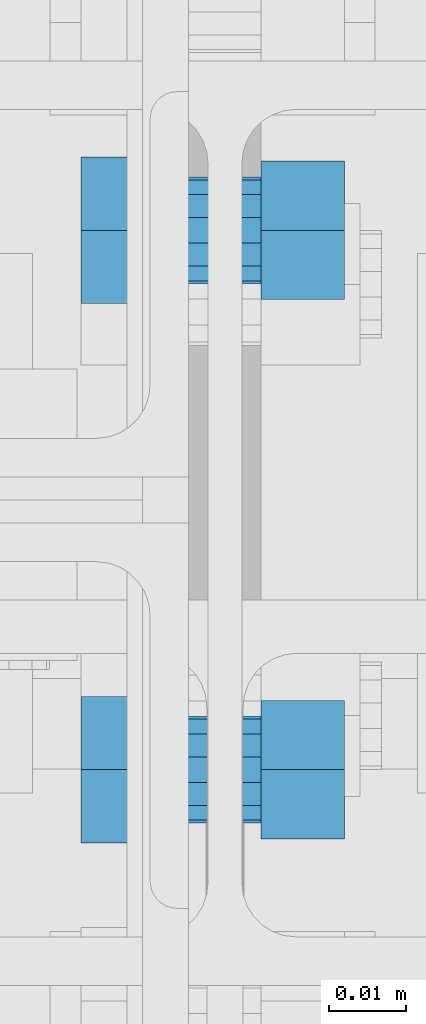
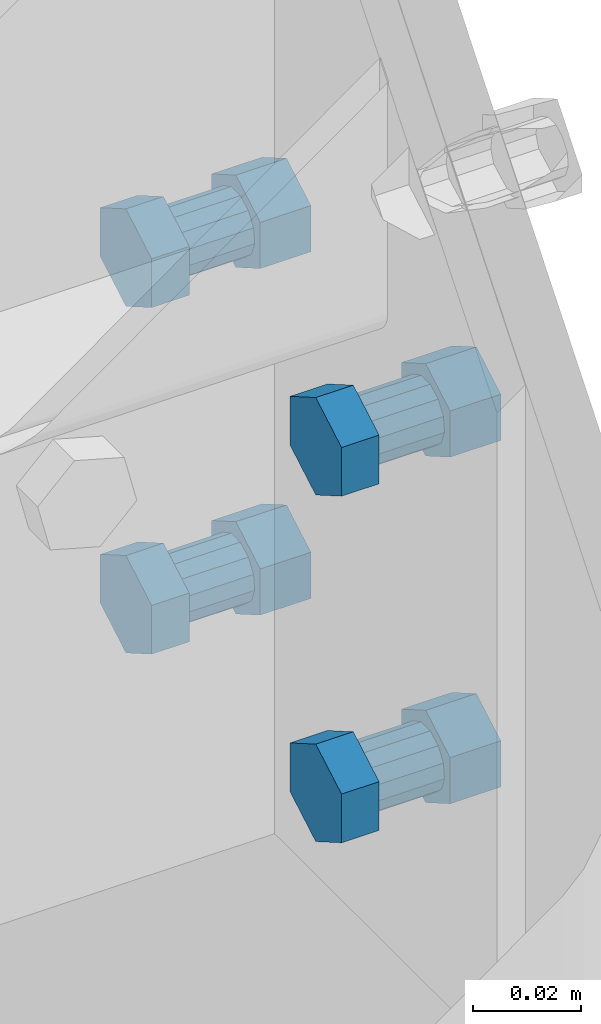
# One storey, part 8 of 18: 1 mechanical fastener.
"""IFC2X3 building model written with IfcOpenShell, lengths in millimetres."""

from ifc_helpers import new_model, si_unit, frame, origin_with_axes, place, context, subcontext, project, spatial, faceted_brep, source, transform, mapped, type_object, element, save


model = new_model("IFC2X3")

# Units and contexts
model_context = context("Model", 3, precision=1e-05, world=origin_with_axes())
body_context = subcontext(model_context, "Body", "Model", "MODEL_VIEW")
ifc_project = project(units=[si_unit("LENGTHUNIT", "METRE", prefix="MILLI"), si_unit("AREAUNIT", "SQUARE_METRE"), si_unit("VOLUMEUNIT", "CUBIC_METRE"), si_unit("MASSUNIT", "GRAM", prefix="KILO"), si_unit("TIMEUNIT", "SECOND"), si_unit("PLANEANGLEUNIT", "RADIAN"), si_unit("SOLIDANGLEUNIT", "STERADIAN"), si_unit("THERMODYNAMICTEMPERATUREUNIT", "DEGREE_CELSIUS"), si_unit("LUMINOUSINTENSITYUNIT", "LUMEN")], contexts=[model_context])

# Site, building, storey
site_placement = place(None, origin_with_axes())
site = spatial("IfcSite", under=ifc_project, at=site_placement, Name="Undefined", CompositionType="ELEMENT")
building_placement = place(site_placement, origin_with_axes())
building = spatial("IfcBuilding", under=site, at=building_placement, Name="Undefined", CompositionType="ELEMENT")
storey_placement = place(building_placement, origin_with_axes())
storey = spatial("IfcBuildingStorey", under=building, at=storey_placement, Name="Undefined", CompositionType="ELEMENT", Elevation=0.0)

# Mechanical fastener
mechanical_fastener_type = type_object("IfcMechanicalFastenerType", Name="Bolt assembly")
shared_shape_1 = source(origin_with_axes(), body_context, "Body", "Brep", [
    faceted_brep([(10.96965511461, -18.7000000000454, 0.0), (5.484827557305, -18.7000000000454, 9.50000000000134), (-5.484827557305, -18.7000000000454, 9.50000000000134), (-10.96965511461, -18.7000000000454, 0.0), (-5.484827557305, -18.7000000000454, -9.50000000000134), (5.484827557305, -18.7000000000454, -9.50000000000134), (5.484827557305, -10.7000000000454, -9.50000000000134), (-5.484827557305, -10.7000000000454, -9.50000000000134), (-10.96965511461, -10.7000000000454, 0.0), (-5.484827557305, -10.7000000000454, 9.50000000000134), (5.484827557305, -10.7000000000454, 9.50000000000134), (10.96965511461, -10.7000000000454, 0.0), (6.0, -10.7000000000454, 0.0), (5.31273615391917, -10.7000000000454, 2.78833903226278), (3.40838848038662, -10.7000000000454, 4.93790319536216), (0.723220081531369, -10.7000000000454, 5.95625324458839), (-2.12762932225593, -10.7000000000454, 5.61009745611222), (-4.49106448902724, -10.7000000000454, 3.97873594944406), (-5.82565090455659, -10.7000000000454, 1.43589398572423), (-5.82565090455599, -10.7000000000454, -1.43589398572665), (-4.49106448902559, -10.7000000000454, -3.97873594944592), (-2.12762932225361, -10.7000000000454, -5.6100974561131), (0.723220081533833, -10.7000000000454, -5.95625324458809), (3.40838848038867, -10.7000000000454, -4.93790319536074), (3.40838848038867, 14.2999999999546, -4.93790319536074), (0.723220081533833, 14.2999999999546, -5.95625324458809), (-2.12762932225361, 14.2999999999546, -5.6100974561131), (-4.49106448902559, 14.2999999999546, -3.97873594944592), (-5.82565090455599, 14.2999999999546, -1.43589398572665), (-5.82565090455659, 14.2999999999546, 1.43589398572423), (-4.49106448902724, 14.2999999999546, 3.97873594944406), (-2.12762932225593, 14.2999999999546, 5.61009745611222), (0.723220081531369, 14.2999999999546, 5.95625324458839), (3.40838848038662, 14.2999999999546, 4.93790319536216), (5.31273615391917, 14.2999999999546, 2.78833903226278), (6.0, 14.2999999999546, 0.0), (10.39230484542, 4.7000095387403, 0.0), (5.19615242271, 4.7000095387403, 9.00000000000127), (-5.19615242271, 4.7000095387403, 9.00000000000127), (-10.39230484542, 4.7000095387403, 0.0), (-5.19615242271, 4.7000095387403, -9.00000000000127), (5.19615242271, 4.7000095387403, -9.00000000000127), (5.19615242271, 15.5000097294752, -9.00000000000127), (-5.19615242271, 15.5000097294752, -9.00000000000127), (-10.39230484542, 15.5000097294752, 0.0), (-5.19615242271, 15.5000097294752, 9.00000000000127), (5.19615242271, 15.5000097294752, 9.00000000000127), (10.39230484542, 15.5000097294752, 0.0)], [[[0, 1, 2, 3, 4, 5]], [[6, 7, 8, 9, 10, 11]], [[0, 11, 10, 1]], [[1, 10, 9, 2]], [[2, 9, 8, 3]], [[3, 8, 7, 4]], [[4, 7, 6, 5]], [[5, 6, 11, 0]], [[12, 13, 14, 15, 16, 17, 18, 19, 20, 21, 22, 23]], [[24, 25, 26, 27, 28, 29, 30, 31, 32, 33, 34, 35]], [[12, 35, 34, 13]], [[13, 34, 33, 14]], [[14, 33, 32, 15]], [[15, 32, 31, 16]], [[16, 31, 30, 17]], [[17, 30, 29, 18]], [[18, 29, 28, 19]], [[19, 28, 27, 20]], [[20, 27, 26, 21]], [[21, 26, 25, 22]], [[22, 25, 24, 23]], [[23, 24, 35, 12]], [[36, 37, 38, 39, 40, 41]], [[42, 43, 44, 45, 46, 47]], [[36, 47, 46, 37]], [[37, 46, 45, 38]], [[38, 45, 44, 39]], [[39, 44, 43, 40]], [[40, 43, 42, 41]], [[41, 42, 47, 36]]]),
    faceted_brep([(7.0, -4.7999900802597, 0.0), (6.19819217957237, -4.7999900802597, 3.25306220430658), (3.97645322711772, -4.7999900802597, 5.76088706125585), (0.843756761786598, -4.7999900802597, 6.94896211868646), (-2.48223420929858, -4.7999900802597, 6.54511369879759), (-5.23957523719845, -4.7999900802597, 4.64185860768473), (-6.79659272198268, -4.7999900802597, 1.67520965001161), (-6.79659272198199, -4.7999900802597, -1.67520965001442), (-5.23957523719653, -4.7999900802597, -4.6418586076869), (-2.48223420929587, -4.7999900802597, -6.54511369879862), (0.843756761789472, -4.7999900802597, -6.94896211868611), (3.97645322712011, -4.7999900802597, -5.7608870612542), (3.97645322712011, 4.7000095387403, -5.7608870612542), (0.843756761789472, 4.7000095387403, -6.94896211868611), (-2.48223420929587, 4.7000095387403, -6.54511369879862), (-5.23957523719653, 4.7000095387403, -4.6418586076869), (-6.79659272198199, 4.7000095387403, -1.67520965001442), (-6.79659272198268, 4.7000095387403, 1.67520965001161), (-5.23957523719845, 4.7000095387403, 4.64185860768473), (-2.48223420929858, 4.7000095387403, 6.54511369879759), (0.843756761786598, 4.7000095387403, 6.94896211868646), (3.97645322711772, 4.7000095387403, 5.76088706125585), (6.19819217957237, 4.7000095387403, 3.25306220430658), (7.0, 4.7000095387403, 0.0), (7.0, -10.6000000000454, 0.0), (6.19819217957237, -10.6000000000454, 3.25306220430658), (3.97645322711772, -10.6000000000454, 5.76088706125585), (0.843756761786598, -10.6000000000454, 6.94896211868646), (-2.48223420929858, -10.6000000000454, 6.54511369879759), (-5.23957523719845, -10.6000000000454, 4.64185860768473), (-6.79659272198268, -10.6000000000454, 1.67520965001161), (-6.79659272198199, -10.6000000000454, -1.67520965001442), (-5.23957523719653, -10.6000000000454, -4.6418586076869), (-2.48223420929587, -10.6000000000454, -6.54511369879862), (0.843756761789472, -10.6000000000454, -6.94896211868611), (3.97645322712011, -10.6000000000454, -5.7608870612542), (3.97645322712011, -4.60000000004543, -5.7608870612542), (0.843756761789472, -4.60000000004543, -6.94896211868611), (-2.48223420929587, -4.60000000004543, -6.54511369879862), (-5.23957523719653, -4.60000000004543, -4.6418586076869), (-6.79659272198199, -4.60000000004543, -1.67520965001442), (-6.79659272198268, -4.60000000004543, 1.67520965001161), (-5.23957523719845, -4.60000000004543, 4.64185860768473), (-2.48223420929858, -4.60000000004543, 6.54511369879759), (0.843756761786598, -4.60000000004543, 6.94896211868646), (3.97645322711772, -4.60000000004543, 5.76088706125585), (6.19819217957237, -4.60000000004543, 3.25306220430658), (7.0, -4.60000000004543, 0.0)], [[[0, 1, 2, 3, 4, 5, 6, 7, 8, 9, 10, 11]], [[12, 13, 14, 15, 16, 17, 18, 19, 20, 21, 22, 23]], [[0, 23, 22, 1]], [[1, 22, 21, 2]], [[2, 21, 20, 3]], [[3, 20, 19, 4]], [[4, 19, 18, 5]], [[5, 18, 17, 6]], [[6, 17, 16, 7]], [[7, 16, 15, 8]], [[8, 15, 14, 9]], [[9, 14, 13, 10]], [[10, 13, 12, 11]], [[11, 12, 23, 0]], [[24, 25, 26, 27, 28, 29, 30, 31, 32, 33, 34, 35]], [[36, 37, 38, 39, 40, 41, 42, 43, 44, 45, 46, 47]], [[24, 47, 46, 25]], [[25, 46, 45, 26]], [[26, 45, 44, 27]], [[27, 44, 43, 28]], [[28, 43, 42, 29]], [[29, 42, 41, 30]], [[30, 41, 40, 31]], [[31, 40, 39, 32]], [[32, 39, 38, 33]], [[33, 38, 37, 34]], [[34, 37, 36, 35]], [[35, 36, 47, 24]]]),
])
shared_shape_2 = source(origin_with_axes(), body_context, "Body", "Brep", [
    faceted_brep([(10.96965511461, -18.7000000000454, 0.0), (5.484827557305, -18.7000000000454, 9.50000000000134), (-5.484827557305, -18.7000000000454, 9.50000000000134), (-10.96965511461, -18.7000000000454, 0.0), (-5.484827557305, -18.7000000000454, -9.50000000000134), (5.484827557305, -18.7000000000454, -9.50000000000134), (5.484827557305, -10.7000000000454, -9.50000000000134), (-5.484827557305, -10.7000000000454, -9.50000000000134), (-10.96965511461, -10.7000000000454, 0.0), (-5.484827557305, -10.7000000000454, 9.50000000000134), (5.484827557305, -10.7000000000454, 9.50000000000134), (10.96965511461, -10.7000000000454, 0.0), (6.0, -10.7000000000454, 0.0), (5.31273615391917, -10.7000000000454, 2.78833903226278), (3.40838848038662, -10.7000000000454, 4.93790319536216), (0.723220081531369, -10.7000000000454, 5.95625324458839), (-2.12762932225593, -10.7000000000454, 5.61009745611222), (-4.49106448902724, -10.7000000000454, 3.97873594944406), (-5.82565090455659, -10.7000000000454, 1.43589398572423), (-5.82565090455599, -10.7000000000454, -1.43589398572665), (-4.49106448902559, -10.7000000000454, -3.97873594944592), (-2.12762932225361, -10.7000000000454, -5.6100974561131), (0.723220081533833, -10.7000000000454, -5.95625324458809), (3.40838848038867, -10.7000000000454, -4.93790319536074), (3.40838848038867, 14.2999999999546, -4.93790319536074), (0.723220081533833, 14.2999999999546, -5.95625324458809), (-2.12762932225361, 14.2999999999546, -5.6100974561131), (-4.49106448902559, 14.2999999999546, -3.97873594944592), (-5.82565090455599, 14.2999999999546, -1.43589398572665), (-5.82565090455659, 14.2999999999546, 1.43589398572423), (-4.49106448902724, 14.2999999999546, 3.97873594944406), (-2.12762932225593, 14.2999999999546, 5.61009745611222), (0.723220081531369, 14.2999999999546, 5.95625324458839), (3.40838848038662, 14.2999999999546, 4.93790319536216), (5.31273615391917, 14.2999999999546, 2.78833903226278), (6.0, 14.2999999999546, 0.0), (10.39230484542, 4.7000095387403, 0.0), (5.19615242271, 4.7000095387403, 9.00000000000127), (-5.19615242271, 4.7000095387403, 9.00000000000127), (-10.39230484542, 4.7000095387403, 0.0), (-5.19615242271, 4.7000095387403, -9.00000000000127), (5.19615242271, 4.7000095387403, -9.00000000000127), (5.19615242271, 15.5000097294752, -9.00000000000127), (-5.19615242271, 15.5000097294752, -9.00000000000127), (-10.39230484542, 15.5000097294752, 0.0), (-5.19615242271, 15.5000097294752, 9.00000000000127), (5.19615242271, 15.5000097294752, 9.00000000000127), (10.39230484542, 15.5000097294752, 0.0)], [[[0, 1, 2, 3, 4, 5]], [[6, 7, 8, 9, 10, 11]], [[0, 11, 10, 1]], [[1, 10, 9, 2]], [[2, 9, 8, 3]], [[3, 8, 7, 4]], [[4, 7, 6, 5]], [[5, 6, 11, 0]], [[12, 13, 14, 15, 16, 17, 18, 19, 20, 21, 22, 23]], [[24, 25, 26, 27, 28, 29, 30, 31, 32, 33, 34, 35]], [[12, 35, 34, 13]], [[13, 34, 33, 14]], [[14, 33, 32, 15]], [[15, 32, 31, 16]], [[16, 31, 30, 17]], [[17, 30, 29, 18]], [[18, 29, 28, 19]], [[19, 28, 27, 20]], [[20, 27, 26, 21]], [[21, 26, 25, 22]], [[22, 25, 24, 23]], [[23, 24, 35, 12]], [[36, 37, 38, 39, 40, 41]], [[42, 43, 44, 45, 46, 47]], [[36, 47, 46, 37]], [[37, 46, 45, 38]], [[38, 45, 44, 39]], [[39, 44, 43, 40]], [[40, 43, 42, 41]], [[41, 42, 47, 36]]]),
    faceted_brep([(7.0, -4.7999900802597, 0.0), (6.19819217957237, -4.7999900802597, 3.25306220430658), (3.97645322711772, -4.7999900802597, 5.76088706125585), (0.843756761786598, -4.7999900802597, 6.94896211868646), (-2.48223420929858, -4.7999900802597, 6.54511369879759), (-5.23957523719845, -4.7999900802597, 4.64185860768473), (-6.79659272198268, -4.7999900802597, 1.67520965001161), (-6.79659272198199, -4.7999900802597, -1.67520965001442), (-5.23957523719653, -4.7999900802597, -4.6418586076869), (-2.48223420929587, -4.7999900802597, -6.54511369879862), (0.843756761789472, -4.7999900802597, -6.94896211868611), (3.97645322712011, -4.7999900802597, -5.7608870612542), (3.97645322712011, 4.7000095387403, -5.7608870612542), (0.843756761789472, 4.7000095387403, -6.94896211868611), (-2.48223420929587, 4.7000095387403, -6.54511369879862), (-5.23957523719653, 4.7000095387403, -4.6418586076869), (-6.79659272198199, 4.7000095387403, -1.67520965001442), (-6.79659272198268, 4.7000095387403, 1.67520965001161), (-5.23957523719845, 4.7000095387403, 4.64185860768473), (-2.48223420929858, 4.7000095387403, 6.54511369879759), (0.843756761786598, 4.7000095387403, 6.94896211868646), (3.97645322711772, 4.7000095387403, 5.76088706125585), (6.19819217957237, 4.7000095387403, 3.25306220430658), (7.0, 4.7000095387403, 0.0), (7.0, -10.6000000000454, 0.0), (6.19819217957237, -10.6000000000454, 3.25306220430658), (3.97645322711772, -10.6000000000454, 5.76088706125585), (0.843756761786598, -10.6000000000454, 6.94896211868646), (-2.48223420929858, -10.6000000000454, 6.54511369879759), (-5.23957523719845, -10.6000000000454, 4.64185860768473), (-6.79659272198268, -10.6000000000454, 1.67520965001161), (-6.79659272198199, -10.6000000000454, -1.67520965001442), (-5.23957523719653, -10.6000000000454, -4.6418586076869), (-2.48223420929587, -10.6000000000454, -6.54511369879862), (0.843756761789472, -10.6000000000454, -6.94896211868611), (3.97645322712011, -10.6000000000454, -5.7608870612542), (3.97645322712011, -4.60000000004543, -5.7608870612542), (0.843756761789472, -4.60000000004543, -6.94896211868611), (-2.48223420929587, -4.60000000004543, -6.54511369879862), (-5.23957523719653, -4.60000000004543, -4.6418586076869), (-6.79659272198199, -4.60000000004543, -1.67520965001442), (-6.79659272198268, -4.60000000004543, 1.67520965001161), (-5.23957523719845, -4.60000000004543, 4.64185860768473), (-2.48223420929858, -4.60000000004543, 6.54511369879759), (0.843756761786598, -4.60000000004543, 6.94896211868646), (3.97645322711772, -4.60000000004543, 5.76088706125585), (6.19819217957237, -4.60000000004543, 3.25306220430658), (7.0, -4.60000000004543, 0.0)], [[[0, 1, 2, 3, 4, 5, 6, 7, 8, 9, 10, 11]], [[12, 13, 14, 15, 16, 17, 18, 19, 20, 21, 22, 23]], [[0, 23, 22, 1]], [[1, 22, 21, 2]], [[2, 21, 20, 3]], [[3, 20, 19, 4]], [[4, 19, 18, 5]], [[5, 18, 17, 6]], [[6, 17, 16, 7]], [[7, 16, 15, 8]], [[8, 15, 14, 9]], [[9, 14, 13, 10]], [[10, 13, 12, 11]], [[11, 12, 23, 0]], [[24, 25, 26, 27, 28, 29, 30, 31, 32, 33, 34, 35]], [[36, 37, 38, 39, 40, 41, 42, 43, 44, 45, 46, 47]], [[24, 47, 46, 25]], [[25, 46, 45, 26]], [[26, 45, 44, 27]], [[27, 44, 43, 28]], [[28, 43, 42, 29]], [[29, 42, 41, 30]], [[30, 41, 40, 31]], [[31, 40, 39, 32]], [[32, 39, 38, 33]], [[33, 38, 37, 34]], [[34, 37, 36, 35]], [[35, 36, 47, 24]]]),
])
shared_shape_3 = source(origin_with_axes(), body_context, "Body", "Brep", [
    faceted_brep([(10.96965511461, -18.7000000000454, 0.0), (5.484827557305, -18.7000000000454, 9.50000000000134), (-5.484827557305, -18.7000000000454, 9.50000000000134), (-10.96965511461, -18.7000000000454, 0.0), (-5.484827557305, -18.7000000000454, -9.50000000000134), (5.484827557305, -18.7000000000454, -9.50000000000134), (5.484827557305, -10.7000000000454, -9.50000000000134), (-5.484827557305, -10.7000000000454, -9.50000000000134), (-10.96965511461, -10.7000000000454, 0.0), (-5.484827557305, -10.7000000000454, 9.50000000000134), (5.484827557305, -10.7000000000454, 9.50000000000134), (10.96965511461, -10.7000000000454, 0.0), (6.0, -10.7000000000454, 0.0), (5.31273615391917, -10.7000000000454, 2.78833903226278), (3.40838848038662, -10.7000000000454, 4.93790319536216), (0.723220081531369, -10.7000000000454, 5.95625324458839), (-2.12762932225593, -10.7000000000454, 5.61009745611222), (-4.49106448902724, -10.7000000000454, 3.97873594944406), (-5.82565090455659, -10.7000000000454, 1.43589398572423), (-5.82565090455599, -10.7000000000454, -1.43589398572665), (-4.49106448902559, -10.7000000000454, -3.97873594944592), (-2.12762932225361, -10.7000000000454, -5.6100974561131), (0.723220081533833, -10.7000000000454, -5.95625324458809), (3.40838848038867, -10.7000000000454, -4.93790319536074), (3.40838848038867, 14.2999999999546, -4.93790319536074), (0.723220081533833, 14.2999999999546, -5.95625324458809), (-2.12762932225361, 14.2999999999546, -5.6100974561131), (-4.49106448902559, 14.2999999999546, -3.97873594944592), (-5.82565090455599, 14.2999999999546, -1.43589398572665), (-5.82565090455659, 14.2999999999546, 1.43589398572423), (-4.49106448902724, 14.2999999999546, 3.97873594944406), (-2.12762932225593, 14.2999999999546, 5.61009745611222), (0.723220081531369, 14.2999999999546, 5.95625324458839), (3.40838848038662, 14.2999999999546, 4.93790319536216), (5.31273615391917, 14.2999999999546, 2.78833903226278), (6.0, 14.2999999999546, 0.0), (10.39230484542, 4.7000095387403, 0.0), (5.19615242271, 4.7000095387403, 9.00000000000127), (-5.19615242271, 4.7000095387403, 9.00000000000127), (-10.39230484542, 4.7000095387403, 0.0), (-5.19615242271, 4.7000095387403, -9.00000000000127), (5.19615242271, 4.7000095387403, -9.00000000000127), (5.19615242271, 15.5000097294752, -9.00000000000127), (-5.19615242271, 15.5000097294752, -9.00000000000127), (-10.39230484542, 15.5000097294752, 0.0), (-5.19615242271, 15.5000097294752, 9.00000000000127), (5.19615242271, 15.5000097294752, 9.00000000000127), (10.39230484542, 15.5000097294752, 0.0)], [[[0, 1, 2, 3, 4, 5]], [[6, 7, 8, 9, 10, 11]], [[0, 11, 10, 1]], [[1, 10, 9, 2]], [[2, 9, 8, 3]], [[3, 8, 7, 4]], [[4, 7, 6, 5]], [[5, 6, 11, 0]], [[12, 13, 14, 15, 16, 17, 18, 19, 20, 21, 22, 23]], [[24, 25, 26, 27, 28, 29, 30, 31, 32, 33, 34, 35]], [[12, 35, 34, 13]], [[13, 34, 33, 14]], [[14, 33, 32, 15]], [[15, 32, 31, 16]], [[16, 31, 30, 17]], [[17, 30, 29, 18]], [[18, 29, 28, 19]], [[19, 28, 27, 20]], [[20, 27, 26, 21]], [[21, 26, 25, 22]], [[22, 25, 24, 23]], [[23, 24, 35, 12]], [[36, 37, 38, 39, 40, 41]], [[42, 43, 44, 45, 46, 47]], [[36, 47, 46, 37]], [[37, 46, 45, 38]], [[38, 45, 44, 39]], [[39, 44, 43, 40]], [[40, 43, 42, 41]], [[41, 42, 47, 36]]]),
    faceted_brep([(7.0, -4.7999900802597, 0.0), (6.19819217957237, -4.7999900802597, 3.25306220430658), (3.97645322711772, -4.7999900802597, 5.76088706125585), (0.843756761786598, -4.7999900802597, 6.94896211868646), (-2.48223420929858, -4.7999900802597, 6.54511369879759), (-5.23957523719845, -4.7999900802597, 4.64185860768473), (-6.79659272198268, -4.7999900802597, 1.67520965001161), (-6.79659272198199, -4.7999900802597, -1.67520965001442), (-5.23957523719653, -4.7999900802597, -4.6418586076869), (-2.48223420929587, -4.7999900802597, -6.54511369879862), (0.843756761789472, -4.7999900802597, -6.94896211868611), (3.97645322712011, -4.7999900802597, -5.7608870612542), (3.97645322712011, 4.7000095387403, -5.7608870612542), (0.843756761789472, 4.7000095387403, -6.94896211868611), (-2.48223420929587, 4.7000095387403, -6.54511369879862), (-5.23957523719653, 4.7000095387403, -4.6418586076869), (-6.79659272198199, 4.7000095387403, -1.67520965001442), (-6.79659272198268, 4.7000095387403, 1.67520965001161), (-5.23957523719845, 4.7000095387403, 4.64185860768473), (-2.48223420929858, 4.7000095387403, 6.54511369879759), (0.843756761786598, 4.7000095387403, 6.94896211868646), (3.97645322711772, 4.7000095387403, 5.76088706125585), (6.19819217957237, 4.7000095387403, 3.25306220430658), (7.0, 4.7000095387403, 0.0), (7.0, -10.6000000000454, 0.0), (6.19819217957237, -10.6000000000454, 3.25306220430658), (3.97645322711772, -10.6000000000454, 5.76088706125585), (0.843756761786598, -10.6000000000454, 6.94896211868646), (-2.48223420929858, -10.6000000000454, 6.54511369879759), (-5.23957523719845, -10.6000000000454, 4.64185860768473), (-6.79659272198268, -10.6000000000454, 1.67520965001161), (-6.79659272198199, -10.6000000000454, -1.67520965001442), (-5.23957523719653, -10.6000000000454, -4.6418586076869), (-2.48223420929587, -10.6000000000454, -6.54511369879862), (0.843756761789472, -10.6000000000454, -6.94896211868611), (3.97645322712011, -10.6000000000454, -5.7608870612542), (3.97645322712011, -4.60000000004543, -5.7608870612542), (0.843756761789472, -4.60000000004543, -6.94896211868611), (-2.48223420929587, -4.60000000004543, -6.54511369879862), (-5.23957523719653, -4.60000000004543, -4.6418586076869), (-6.79659272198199, -4.60000000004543, -1.67520965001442), (-6.79659272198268, -4.60000000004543, 1.67520965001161), (-5.23957523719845, -4.60000000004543, 4.64185860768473), (-2.48223420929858, -4.60000000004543, 6.54511369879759), (0.843756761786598, -4.60000000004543, 6.94896211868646), (3.97645322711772, -4.60000000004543, 5.76088706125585), (6.19819217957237, -4.60000000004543, 3.25306220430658), (7.0, -4.60000000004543, 0.0)], [[[0, 1, 2, 3, 4, 5, 6, 7, 8, 9, 10, 11]], [[12, 13, 14, 15, 16, 17, 18, 19, 20, 21, 22, 23]], [[0, 23, 22, 1]], [[1, 22, 21, 2]], [[2, 21, 20, 3]], [[3, 20, 19, 4]], [[4, 19, 18, 5]], [[5, 18, 17, 6]], [[6, 17, 16, 7]], [[7, 16, 15, 8]], [[8, 15, 14, 9]], [[9, 14, 13, 10]], [[10, 13, 12, 11]], [[11, 12, 23, 0]], [[24, 25, 26, 27, 28, 29, 30, 31, 32, 33, 34, 35]], [[36, 37, 38, 39, 40, 41, 42, 43, 44, 45, 46, 47]], [[24, 47, 46, 25]], [[25, 46, 45, 26]], [[26, 45, 44, 27]], [[27, 44, 43, 28]], [[28, 43, 42, 29]], [[29, 42, 41, 30]], [[30, 41, 40, 31]], [[31, 40, 39, 32]], [[32, 39, 38, 33]], [[33, 38, 37, 34]], [[34, 37, 36, 35]], [[35, 36, 47, 24]]]),
])
shared_shape_4 = source(origin_with_axes(), body_context, "Body", "Brep", [
    faceted_brep([(10.96965511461, -18.7000000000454, 0.0), (5.484827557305, -18.7000000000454, 9.50000000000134), (-5.484827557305, -18.7000000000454, 9.50000000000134), (-10.96965511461, -18.7000000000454, 0.0), (-5.484827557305, -18.7000000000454, -9.50000000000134), (5.484827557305, -18.7000000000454, -9.50000000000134), (5.484827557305, -10.7000000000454, -9.50000000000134), (-5.484827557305, -10.7000000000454, -9.50000000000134), (-10.96965511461, -10.7000000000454, 0.0), (-5.484827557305, -10.7000000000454, 9.50000000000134), (5.484827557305, -10.7000000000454, 9.50000000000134), (10.96965511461, -10.7000000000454, 0.0), (6.0, -10.7000000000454, 0.0), (5.31273615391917, -10.7000000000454, 2.78833903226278), (3.40838848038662, -10.7000000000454, 4.93790319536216), (0.723220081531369, -10.7000000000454, 5.95625324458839), (-2.12762932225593, -10.7000000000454, 5.61009745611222), (-4.49106448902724, -10.7000000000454, 3.97873594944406), (-5.82565090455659, -10.7000000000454, 1.43589398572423), (-5.82565090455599, -10.7000000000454, -1.43589398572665), (-4.49106448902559, -10.7000000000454, -3.97873594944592), (-2.12762932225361, -10.7000000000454, -5.6100974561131), (0.723220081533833, -10.7000000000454, -5.95625324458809), (3.40838848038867, -10.7000000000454, -4.93790319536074), (3.40838848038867, 14.2999999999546, -4.93790319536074), (0.723220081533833, 14.2999999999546, -5.95625324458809), (-2.12762932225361, 14.2999999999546, -5.6100974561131), (-4.49106448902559, 14.2999999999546, -3.97873594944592), (-5.82565090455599, 14.2999999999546, -1.43589398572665), (-5.82565090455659, 14.2999999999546, 1.43589398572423), (-4.49106448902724, 14.2999999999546, 3.97873594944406), (-2.12762932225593, 14.2999999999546, 5.61009745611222), (0.723220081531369, 14.2999999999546, 5.95625324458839), (3.40838848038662, 14.2999999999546, 4.93790319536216), (5.31273615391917, 14.2999999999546, 2.78833903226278), (6.0, 14.2999999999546, 0.0), (10.39230484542, 4.7000095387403, 0.0), (5.19615242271, 4.7000095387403, 9.00000000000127), (-5.19615242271, 4.7000095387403, 9.00000000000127), (-10.39230484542, 4.7000095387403, 0.0), (-5.19615242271, 4.7000095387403, -9.00000000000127), (5.19615242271, 4.7000095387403, -9.00000000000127), (5.19615242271, 15.5000097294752, -9.00000000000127), (-5.19615242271, 15.5000097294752, -9.00000000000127), (-10.39230484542, 15.5000097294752, 0.0), (-5.19615242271, 15.5000097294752, 9.00000000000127), (5.19615242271, 15.5000097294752, 9.00000000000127), (10.39230484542, 15.5000097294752, 0.0)], [[[0, 1, 2, 3, 4, 5]], [[6, 7, 8, 9, 10, 11]], [[0, 11, 10, 1]], [[1, 10, 9, 2]], [[2, 9, 8, 3]], [[3, 8, 7, 4]], [[4, 7, 6, 5]], [[5, 6, 11, 0]], [[12, 13, 14, 15, 16, 17, 18, 19, 20, 21, 22, 23]], [[24, 25, 26, 27, 28, 29, 30, 31, 32, 33, 34, 35]], [[12, 35, 34, 13]], [[13, 34, 33, 14]], [[14, 33, 32, 15]], [[15, 32, 31, 16]], [[16, 31, 30, 17]], [[17, 30, 29, 18]], [[18, 29, 28, 19]], [[19, 28, 27, 20]], [[20, 27, 26, 21]], [[21, 26, 25, 22]], [[22, 25, 24, 23]], [[23, 24, 35, 12]], [[36, 37, 38, 39, 40, 41]], [[42, 43, 44, 45, 46, 47]], [[36, 47, 46, 37]], [[37, 46, 45, 38]], [[38, 45, 44, 39]], [[39, 44, 43, 40]], [[40, 43, 42, 41]], [[41, 42, 47, 36]]]),
    faceted_brep([(7.0, -4.7999900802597, 0.0), (6.19819217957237, -4.7999900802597, 3.25306220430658), (3.97645322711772, -4.7999900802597, 5.76088706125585), (0.843756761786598, -4.7999900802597, 6.94896211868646), (-2.48223420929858, -4.7999900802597, 6.54511369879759), (-5.23957523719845, -4.7999900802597, 4.64185860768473), (-6.79659272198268, -4.7999900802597, 1.67520965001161), (-6.79659272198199, -4.7999900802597, -1.67520965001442), (-5.23957523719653, -4.7999900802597, -4.6418586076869), (-2.48223420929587, -4.7999900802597, -6.54511369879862), (0.843756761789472, -4.7999900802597, -6.94896211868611), (3.97645322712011, -4.7999900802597, -5.7608870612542), (3.97645322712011, 4.7000095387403, -5.7608870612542), (0.843756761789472, 4.7000095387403, -6.94896211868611), (-2.48223420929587, 4.7000095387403, -6.54511369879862), (-5.23957523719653, 4.7000095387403, -4.6418586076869), (-6.79659272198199, 4.7000095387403, -1.67520965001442), (-6.79659272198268, 4.7000095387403, 1.67520965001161), (-5.23957523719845, 4.7000095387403, 4.64185860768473), (-2.48223420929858, 4.7000095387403, 6.54511369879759), (0.843756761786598, 4.7000095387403, 6.94896211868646), (3.97645322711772, 4.7000095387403, 5.76088706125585), (6.19819217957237, 4.7000095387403, 3.25306220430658), (7.0, 4.7000095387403, 0.0), (7.0, -10.6000000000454, 0.0), (6.19819217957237, -10.6000000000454, 3.25306220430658), (3.97645322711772, -10.6000000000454, 5.76088706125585), (0.843756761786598, -10.6000000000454, 6.94896211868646), (-2.48223420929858, -10.6000000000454, 6.54511369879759), (-5.23957523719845, -10.6000000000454, 4.64185860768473), (-6.79659272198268, -10.6000000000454, 1.67520965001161), (-6.79659272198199, -10.6000000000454, -1.67520965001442), (-5.23957523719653, -10.6000000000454, -4.6418586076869), (-2.48223420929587, -10.6000000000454, -6.54511369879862), (0.843756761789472, -10.6000000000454, -6.94896211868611), (3.97645322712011, -10.6000000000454, -5.7608870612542), (3.97645322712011, -4.60000000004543, -5.7608870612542), (0.843756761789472, -4.60000000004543, -6.94896211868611), (-2.48223420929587, -4.60000000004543, -6.54511369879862), (-5.23957523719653, -4.60000000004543, -4.6418586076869), (-6.79659272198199, -4.60000000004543, -1.67520965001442), (-6.79659272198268, -4.60000000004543, 1.67520965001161), (-5.23957523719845, -4.60000000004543, 4.64185860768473), (-2.48223420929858, -4.60000000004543, 6.54511369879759), (0.843756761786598, -4.60000000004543, 6.94896211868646), (3.97645322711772, -4.60000000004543, 5.76088706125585), (6.19819217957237, -4.60000000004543, 3.25306220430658), (7.0, -4.60000000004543, 0.0)], [[[0, 1, 2, 3, 4, 5, 6, 7, 8, 9, 10, 11]], [[12, 13, 14, 15, 16, 17, 18, 19, 20, 21, 22, 23]], [[0, 23, 22, 1]], [[1, 22, 21, 2]], [[2, 21, 20, 3]], [[3, 20, 19, 4]], [[4, 19, 18, 5]], [[5, 18, 17, 6]], [[6, 17, 16, 7]], [[7, 16, 15, 8]], [[8, 15, 14, 9]], [[9, 14, 13, 10]], [[10, 13, 12, 11]], [[11, 12, 23, 0]], [[24, 25, 26, 27, 28, 29, 30, 31, 32, 33, 34, 35]], [[36, 37, 38, 39, 40, 41, 42, 43, 44, 45, 46, 47]], [[24, 47, 46, 25]], [[25, 46, 45, 26]], [[26, 45, 44, 27]], [[27, 44, 43, 28]], [[28, 43, 42, 29]], [[29, 42, 41, 30]], [[30, 41, 40, 31]], [[31, 40, 39, 32]], [[32, 39, 38, 33]], [[33, 38, 37, 34]], [[34, 37, 36, 35]], [[35, 36, 47, 24]]]),
])
mechanical_fastener_placement = place(storey_placement, frame((-9.72830199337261e-06, -71.9999991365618, 5339.99941189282), z_axis=(0.0, -1.0, -6.7762635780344e-21), x_axis=(2.350712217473e-13, -3.38692037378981e-13, -1.0)))
element("IfcMechanicalFastener", 1, at=mechanical_fastener_placement, inside=storey, type_object=mechanical_fastener_type, Name="Bolt assembly", NominalDiameter=12.0, NominalLength=30.0, context=body_context, shape_type="MappedRepresentation", body=[
    mapped(shared_shape_1, transform((0.0, 0.0, -35.0))),
    mapped(shared_shape_2, transform((78.0, 0.0, -35.0))),
    mapped(shared_shape_3, transform((0.0, 0.0, 35.0))),
    mapped(shared_shape_4, transform((78.0, 0.0, 35.0))),
])

save(model, "model.ifc")
